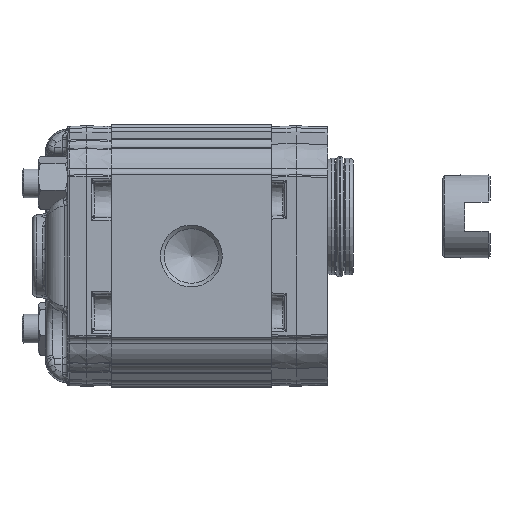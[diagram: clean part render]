
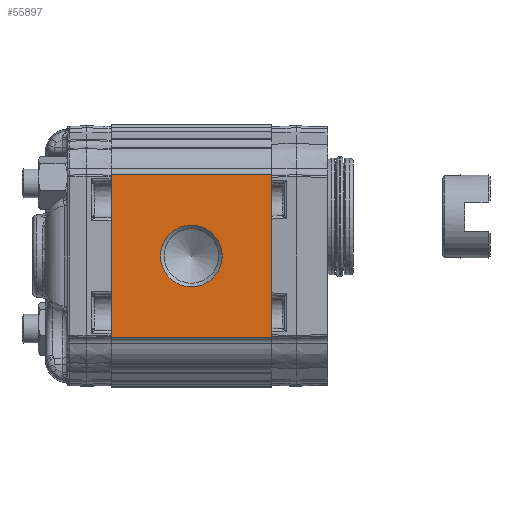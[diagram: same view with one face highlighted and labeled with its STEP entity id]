
A CAD part, left-side view. The second image highlights one B-rep face of the part: STEP entity #55897.
In plain terms, the highlighted planar face has unit normal (-1, 0, 0) as drawn and (1, 0, 0) by its records, which use the part's own axes.
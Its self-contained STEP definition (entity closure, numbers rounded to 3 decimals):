
#730=LINE('',#97898,#2658);
#732=LINE('',#97927,#2660);
#757=LINE('',#98015,#2685);
#758=LINE('',#98017,#2686);
#2658=VECTOR('',#66230,1000.);
#2660=VECTOR('',#66258,1000.);
#2685=VECTOR('',#66351,1000.);
#2686=VECTOR('',#66354,1000.);
#12153=ORIENTED_EDGE('',*,*,#21708,.T.);
#12154=ORIENTED_EDGE('',*,*,#21698,.T.);
#12155=ORIENTED_EDGE('',*,*,#21650,.T.);
#12156=ORIENTED_EDGE('',*,*,#21699,.T.);
#12157=ORIENTED_EDGE('',*,*,#21636,.F.);
#21636=EDGE_CURVE('',#26672,#26673,#730,.T.);
#21650=EDGE_CURVE('',#26687,#26686,#732,.T.);
#21698=EDGE_CURVE('',#26672,#26687,#757,.T.);
#21699=EDGE_CURVE('',#26686,#26673,#758,.F.);
#21708=EDGE_CURVE('',#26716,#26716,#29825,.F.);
#26672=VERTEX_POINT('',#97897);
#26673=VERTEX_POINT('',#97899);
#26686=VERTEX_POINT('',#97926);
#26687=VERTEX_POINT('',#97928);
#26716=VERTEX_POINT('',#98043);
#29825=CIRCLE('',#59352,8.475);
#32126=EDGE_LOOP('',(#12153));
#32127=EDGE_LOOP('',(#12154,#12155,#12156,#12157));
#34913=FACE_BOUND('',#32126,.T.);
#34914=FACE_BOUND('',#32127,.T.);
#36819=PLANE('',#59351);
#55897=ADVANCED_FACE('',(#34913,#34914),#36819,.T.);
#59351=AXIS2_PLACEMENT_3D('',#98041,#66393,#66394);
#59352=AXIS2_PLACEMENT_3D('',#98042,#66395,#66396);
#66230=DIRECTION('',(0.,0.,-1.));
#66258=DIRECTION('',(0.,0.,-1.));
#66351=DIRECTION('',(0.,-1.,0.));
#66354=DIRECTION('',(0.,-1.,0.));
#66393=DIRECTION('',(1.,0.,0.));
#66394=DIRECTION('',(0.,0.,-1.));
#66395=DIRECTION('',(1.,0.,0.));
#66396=DIRECTION('',(0.,0.,-1.));
#97897=CARTESIAN_POINT('',(33.,44.,22.5));
#97898=CARTESIAN_POINT('',(33.,44.,-21.711));
#97899=CARTESIAN_POINT('',(33.,44.,-22.5));
#97926=CARTESIAN_POINT('',(33.,0.,-22.5));
#97927=CARTESIAN_POINT('',(33.,0.,-21.711));
#97928=CARTESIAN_POINT('',(33.,0.,22.5));
#98015=CARTESIAN_POINT('',(33.,44.,22.5));
#98017=CARTESIAN_POINT('',(33.,44.,-22.5));
#98041=CARTESIAN_POINT('',(33.,125.695,-45.494));
#98042=CARTESIAN_POINT('',(33.,22.,0.));
#98043=CARTESIAN_POINT('',(33.,22.,-8.475));
